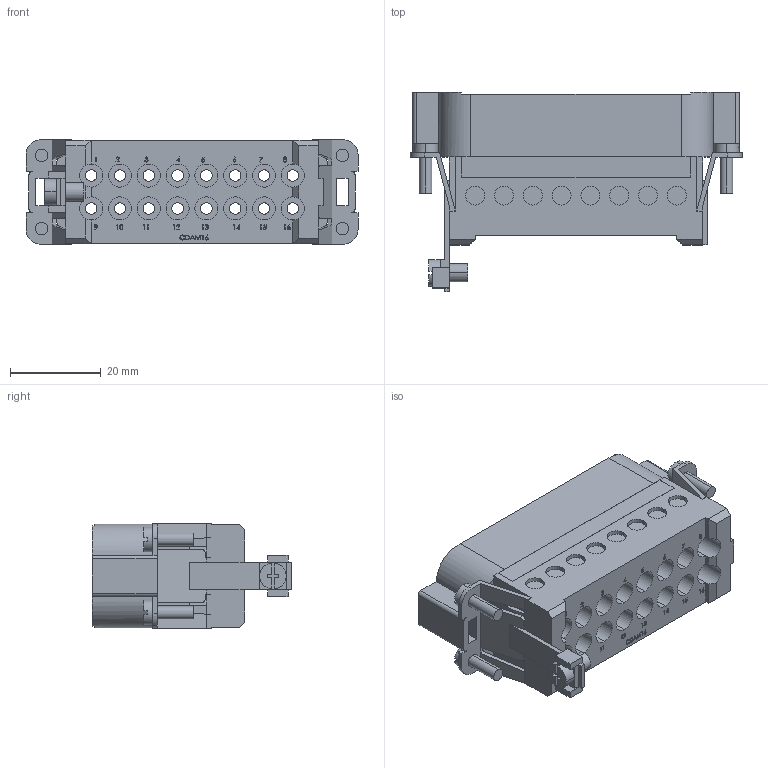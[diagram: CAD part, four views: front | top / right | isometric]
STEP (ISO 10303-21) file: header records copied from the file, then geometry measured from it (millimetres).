
FILE_DESCRIPTION (( 'STEP AP214' ), '1' );
FILE_NAME ('CDCM-16.STEP', '2013-10-10T17:16:50', ( 'Mencom User' ), ( 'Hewlett-Packard Company' ), 'SwSTEP 2.0', 'SolidWorks 2013', '' );
FILE_SCHEMA (( 'AUTOMOTIVE_DESIGN' ));
Length unit declared in the file: inch
Products named in the file (1): CDCM-16
Bounding box: 73.2 x 43.95 x 22.99 mm (x, y, z)
Volume: 27762.2 mm3; surface area: 16557.3 mm2
Topology: 1 solids, 1 shells, 1160 faces, 3056 edges, 2002 vertices
Faces by surface type: plane 707, bspline 243, cylinder 174, cone 36
Entity records: 72286 total; most frequent: CARTESIAN_POINT 29740, ORIENTED_EDGE 6112, DIRECTION 4802, EDGE_CURVE 3056, LINE 2118, VECTOR 2118, VERTEX_POINT 2002, AXIS2_PLACEMENT_3D 1342
